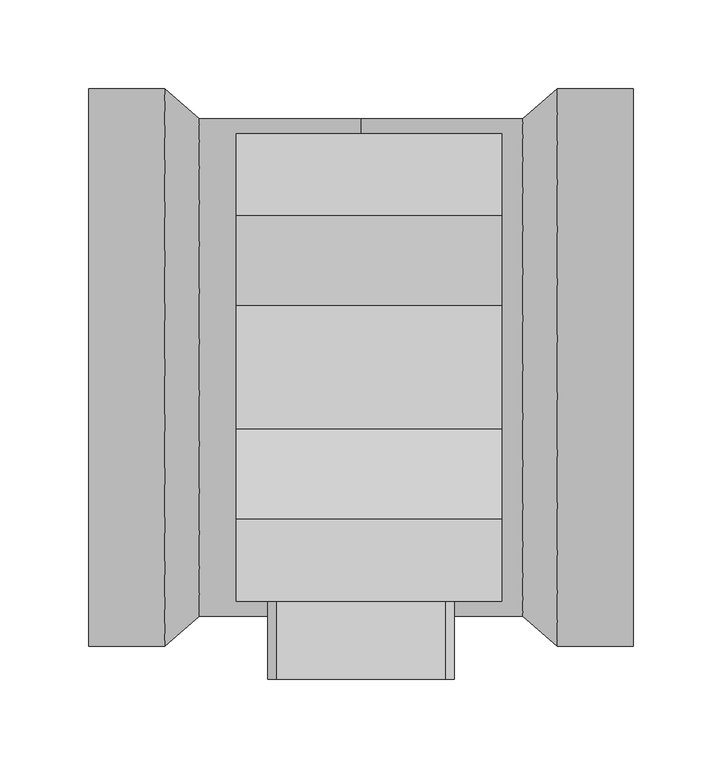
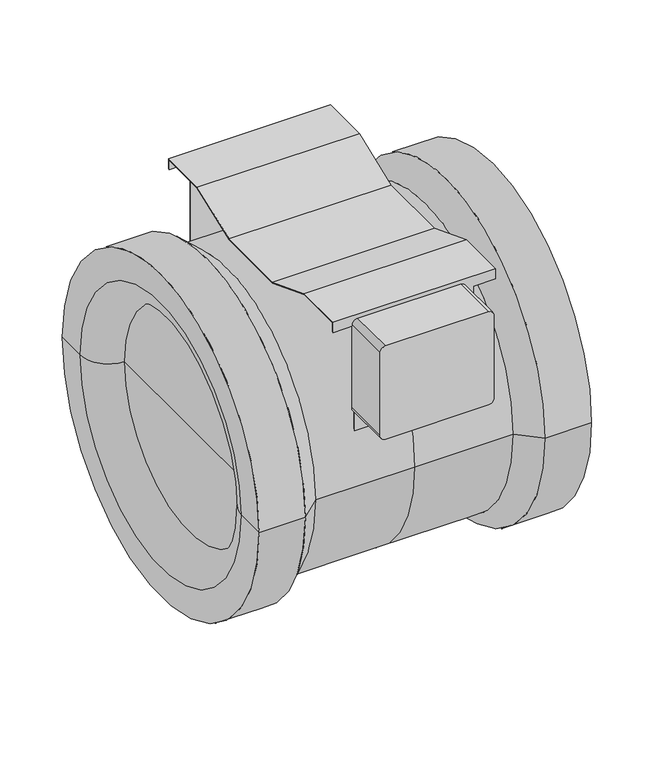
"""IFC4 building model written with IfcOpenShell, lengths in millimetres: unitary equipment geometry, VE-Wentylator-ParaForma-Harmann-JETTEC-Nawiewny : 315/2300S."""

from ifc_helpers import new_model, si_unit, point, frame, frame_2d, origin, place, context, project, spatial, polyline, circle_curve, ellipse_curve, trimmed, segment, composite_curve, outline, extrude, source, transform, mapped, element, save
from ifc_brep_helpers import plane_surface, cylinder_surface, revolved_surface, advanced_brep


def unitary_equipment_6ef10c1b(model_context):
    return source(origin(), model_context, "Body", "SolidModel", [
        extrude(outline(composite_curve([segment(polyline([(65.8, -47.7), (65.8, 47.7)]), True, "CONTINUOUS"), segment(trimmed(circle_curve(frame_2d((70.8, 47.7)), 5.0), [point((65.8, 47.7))], [point((70.8, 52.7))], False, "CARTESIAN"), True, "CONTINUOUS"), segment(polyline([(70.8, 52.7), (151.8, 52.7)]), True, "CONTINUOUS"), segment(trimmed(circle_curve(frame_2d((151.8, 47.7)), 5.0), [point((151.8, 52.7))], [point((156.8, 47.7))], False, "CARTESIAN"), True, "CONTINUOUS"), segment(polyline([(156.8, 47.7), (156.8, -47.7)]), True, "CONTINUOUS"), segment(trimmed(circle_curve(frame_2d((151.8, -47.7)), 5.0), [point((156.8, -47.7))], [point((151.8, -52.7))], False, "CARTESIAN"), True, "CONTINUOUS"), segment(polyline([(151.8, -52.7), (70.8, -52.7)]), True, "CONTINUOUS"), segment(trimmed(circle_curve(frame_2d((70.8, -47.7)), 5.0), [point((70.8, -52.7))], [point((65.8, -47.7))], False, "CARTESIAN"), True, "CONTINUOUS")], self_intersect=False)), frame((0.0, -176.1, 0.0), z_axis=(0.0, 1.0, 0.0), x_axis=(0.0, 0.0, 1.0)), (0.0, 0.0, 1.0), 45.0),
        advanced_brep(
        [(79.5, 131.9, 151.0), (79.5, 131.9, 161.0), (79.5, 85.7, 161.0), (79.5, 34.8, 141.4), (79.5, -34.8, 141.4), (79.5, -85.7, 161.0), (79.5, -131.9, 161.0), (79.5, -131.9, 151.0), (79.5, -130.9, 151.0), (79.5, -130.9, 160.0), (79.5, -85.8858819, 160.0), (79.5, -34.9858819, 140.4), (79.5, 34.9858819, 140.4), (79.5, 85.8858819, 160.0), (79.5, 130.9, 160.0), (79.5, 130.9, 151.0), (59.5, 130.9, 151.0), (59.5, 131.9, 151.0), (-70.5, 130.9, 160.0), (-70.5, 130.9, 151.0), (-50.5, 130.9, 151.0), (-50.5, 130.9, 50.6291665), (59.5, 130.9, 50.6291665), (-70.5, 85.8858819, 160.0), (-70.5, 34.9858819, 140.4), (-70.5, -34.9858819, 140.4), (-70.5, -85.8858819, 160.0), (-70.5, -130.9, 160.0), (59.5, -130.9, 151.0), (59.5, -130.9, 50.6291665), (-50.5, -130.9, 50.6291665), (-50.5, -130.9, 151.0), (-70.5, -130.9, 151.0), (59.5, -131.9, 151.0), (-70.5, -131.9, 161.0), (-70.5, -131.9, 151.0), (-50.5, -131.9, 151.0), (-50.5, -131.9, 47.9636581), (59.5, -131.9, 47.9636581), (-70.5, -85.7, 161.0), (-70.5, -34.8, 141.4), (-70.5, 34.8, 141.4), (-70.5, 85.7, 161.0), (-70.5, 131.9, 161.0), (59.5, 131.9, 47.9636581), (-50.5, 131.9, 47.9636581), (-50.5, 131.9, 151.0), (-70.5, 131.9, 151.0)],
        [
            (0, 1),
            (1, 2),
            (2, 3),
            (3, 4),
            (4, 5),
            (5, 6),
            (6, 7),
            (7, 8),
            (8, 9),
            (9, 10),
            (10, 11),
            (11, 12),
            (12, 13),
            (13, 14),
            (14, 15),
            (15, 0),
            (15, 16),
            (16, 17),
            (17, 0),
            (14, 18),
            (18, 19),
            (19, 20),
            (20, 21),
            (21, 22),
            (22, 16),
            (13, 23),
            (23, 18),
            (12, 24),
            (24, 23),
            (11, 25),
            (25, 24),
            (10, 26),
            (26, 25),
            (9, 27),
            (27, 26),
            (8, 28),
            (28, 29),
            (29, 30),
            (30, 31),
            (31, 32),
            (32, 27),
            (7, 33),
            (33, 28),
            (6, 34),
            (34, 35),
            (35, 36),
            (36, 37),
            (37, 38),
            (38, 33),
            (5, 39),
            (39, 34),
            (4, 40),
            (40, 39),
            (3, 41),
            (41, 40),
            (2, 42),
            (42, 41),
            (1, 43),
            (43, 42),
            (17, 44),
            (44, 45),
            (45, 46),
            (46, 47),
            (47, 43),
            (45, 21, circle_curve(frame((-50.5, 0.0, 0.0), z_axis=(1.0, 0.0, 0.0), x_axis=(0.0, 1.0, 0.0)), 140.35)),
            (20, 46),
            (30, 37, circle_curve(frame((-50.5, 0.0, 0.0), z_axis=(1.0, 0.0, 0.0), x_axis=(0.0, 1.0, 0.0)), 140.35)),
            (36, 31),
            (22, 44, circle_curve(frame((59.5, 0.0, 0.0), z_axis=(-1.0, 0.0, 0.0), x_axis=(0.0, 1.0, 0.0)), 140.35)),
            (38, 29, circle_curve(frame((59.5, 0.0, 0.0), z_axis=(-1.0, 0.0, 0.0), x_axis=(0.0, 1.0, 0.0)), 140.35)),
            (47, 19),
            (32, 35),
        ],
        [
            plane_surface(frame((79.5, 0.0, 0.0), z_axis=(1.0, 0.0, 0.0), x_axis=(0.0, 0.0, 1.0))),
            plane_surface(frame((59.5, 131.9, 151.0), z_axis=(0.0, 0.0, -1.0), x_axis=(1.0, 0.0, 0.0))),
            plane_surface(frame((59.5, 130.9, 151.0), z_axis=(0.0, -1.0, 0.0), x_axis=(1.0, 0.0, 0.0))),
            plane_surface(frame((59.5, 130.9, 160.0), z_axis=(0.0, 0.0, -1.0), x_axis=(1.0, 0.0, 0.0))),
            plane_surface(frame((59.5, 85.8858819, 160.0), z_axis=(0.0, 0.3593476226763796, -0.9332037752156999), x_axis=(1.0, 0.0, 0.0))),
            plane_surface(frame((59.5, 34.9858819, 140.4), z_axis=(0.0, 0.0, -1.0), x_axis=(1.0, 0.0, 0.0))),
            plane_surface(frame((59.5, -34.9858819, 140.4), z_axis=(0.0, -0.3593476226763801, -0.9332037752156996), x_axis=(1.0, 0.0, 0.0))),
            plane_surface(frame((59.5, -85.8858819, 160.0), z_axis=(0.0, 0.0, -1.0), x_axis=(1.0, 0.0, 0.0))),
            plane_surface(frame((59.5, -130.9, 160.0), z_axis=(0.0, 1.0, 0.0), x_axis=(1.0, 0.0, 0.0))),
            plane_surface(frame((59.5, -130.9, 151.0), z_axis=(0.0, 0.0, -1.0), x_axis=(1.0, 0.0, 0.0))),
            plane_surface(frame((59.5, -131.9, 151.0), z_axis=(0.0, -1.0, 0.0), x_axis=(1.0, 0.0, 0.0))),
            plane_surface(frame((59.5, -131.9, 161.0), z_axis=(0.0, 0.0, 1.0), x_axis=(1.0, 0.0, 0.0))),
            plane_surface(frame((59.5, -85.7, 161.0), z_axis=(0.0, 0.35934762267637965, 0.9332037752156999), x_axis=(1.0, 0.0, 0.0))),
            plane_surface(frame((59.5, -34.8, 141.4), z_axis=(0.0, 0.0, 1.0), x_axis=(1.0, 0.0, 0.0))),
            plane_surface(frame((59.5, 34.8, 141.4), z_axis=(0.0, -0.35934762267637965, 0.9332037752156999), x_axis=(1.0, 0.0, 0.0))),
            plane_surface(frame((59.5, 85.7, 161.0), z_axis=(0.0, 0.0, 1.0), x_axis=(1.0, 0.0, 0.0))),
            plane_surface(frame((59.5, 131.9, 161.0), z_axis=(0.0, 1.0, 0.0), x_axis=(1.0, 0.0, 0.0))),
            plane_surface(frame((-50.5, 0.0, 0.0), z_axis=(-1.0, 0.0, 0.0), x_axis=(0.0, 0.0, 1.0))),
            plane_surface(frame((59.5, 0.0, 0.0), z_axis=(1.0, 0.0, 0.0), x_axis=(0.0, 0.0, 1.0))),
            revolved_surface(polyline([(-50.5, 140.35, 0.0), (59.5, 140.35, 0.0)]), (-50.5, 0.0, 0.0), (-1.0, 0.0, 0.0)),
            plane_surface(frame((-70.5, 0.0, 0.0), z_axis=(-1.0, 0.0, 0.0), x_axis=(0.0, 0.0, 1.0))),
            plane_surface(frame((-70.5, 131.9, 151.0), z_axis=(0.0, 0.0, -1.0), x_axis=(1.0, 0.0, 0.0))),
            plane_surface(frame((-70.5, -130.9, 151.0), z_axis=(0.0, 0.0, -1.0), x_axis=(1.0, 0.0, 0.0))),
        ],
        [
            (0, [[1, 2, 3, 4, 5, 6, 7, 8, 9, 10, 11, 12, 13, 14, 15, 16]]),
            (1, [[-16, 17, 18, 19]]),
            (2, [[-15, 20, 21, 22, 23, 24, 25, -17]]),
            (3, [[-20, -14, 26, 27]]),
            (4, [[-26, -13, 28, 29]]),
            (5, [[-28, -12, 30, 31]]),
            (6, [[-30, -11, 32, 33]]),
            (7, [[-32, -10, 34, 35]]),
            (8, [[-34, -9, 36, 37, 38, 39, 40, 41]]),
            (9, [[-8, 42, 43, -36]]),
            (10, [[-7, 44, 45, 46, 47, 48, 49, -42]]),
            (11, [[-44, -6, 50, 51]]),
            (12, [[-50, -5, 52, 53]]),
            (13, [[-52, -4, 54, 55]]),
            (14, [[-54, -3, 56, 57]]),
            (15, [[-56, -2, 58, 59]]),
            (16, [[-58, -1, -19, 60, 61, 62, 63, 64]]),
            (17, [[65, -23, 66, -62]]),
            (17, [[67, -47, 68, -39]]),
            (18, [[69, -60, -18, -25]]),
            (18, [[70, -37, -43, -49]]),
            (19, [[-65, -61, -69, -24]]),
            (19, [[-67, -38, -70, -48]]),
            (20, [[71, -21, -27, -29, -31, -33, -35, -41, 72, -45, -51, -53, -55, -57, -59, -64]]),
            (21, [[-71, -63, -66, -22]]),
            (22, [[-72, -40, -68, -46]]),
        ],
    ),
        advanced_brep(
        [(-91.3, -140.4, 0.0), (-91.3, 140.4, 0.0), (-81.3, 140.4, 0.0), (0.0, 140.4, 0.0), (0.0, -140.4, 0.0), (-81.3, -140.4, 0.0), (-110.9, -157.5, 0.0), (-110.9, 157.5, 0.0), (-153.8, -157.5, 0.0), (-153.8, 157.5, 0.0), (-153.8, -129.5, 0.0), (-153.8, 129.5, 0.0), (-127.8, -103.5, 0.0), (-127.8, 103.5, 0.0), (-127.8, 0.0, 0.0), (153.8, -157.5, 0.0), (153.8, 157.5, 0.0), (153.8, 0.0, 0.0), (110.9, -157.5, 0.0), (110.9, 157.5, 0.0), (91.3, -140.4, 0.0), (91.3, 140.4, 0.0), (81.3, -140.4, 0.0), (81.3, 140.4, 0.0)],
        [
            (0, 1, circle_curve(frame((-91.3, 0.0, 0.0), z_axis=(1.0, 0.0, 0.0), x_axis=(0.0, 1.0, 0.0)), 140.4)),
            (1, 2),
            (2, 3),
            (3, 4, circle_curve(frame((0.0, 0.0, 0.0), z_axis=(-1.0, 0.0, 0.0), x_axis=(0.0, 1.0, 0.0)), 140.4)),
            (4, 5),
            (5, 0),
            (1, 0, circle_curve(frame((-91.3, 0.0, 0.0), z_axis=(1.0, 0.0, 0.0), x_axis=(0.0, 1.0, 0.0)), 140.4)),
            (4, 3, circle_curve(frame((0.0, 0.0, 0.0), z_axis=(-1.0, 0.0, 0.0), x_axis=(0.0, 1.0, 0.0)), 140.4)),
            (0, 6),
            (6, 7, circle_curve(frame((-110.9, 0.0, 0.0), z_axis=(1.0, 0.0, 0.0), x_axis=(0.0, 1.0, 0.0)), 157.5)),
            (7, 1),
            (7, 6, circle_curve(frame((-110.9, 0.0, 0.0), z_axis=(1.0, 0.0, 0.0), x_axis=(0.0, 1.0, 0.0)), 157.5)),
            (6, 8),
            (8, 9, circle_curve(frame((-153.8, 0.0, 0.0), z_axis=(1.0, 0.0, 0.0), x_axis=(0.0, 1.0, 0.0)), 157.5)),
            (9, 7),
            (9, 8, circle_curve(frame((-153.8, 0.0, 0.0), z_axis=(1.0, 0.0, 0.0), x_axis=(0.0, 1.0, 0.0)), 157.5)),
            (8, 10),
            (10, 11, circle_curve(frame((-153.8, 0.0, 0.0), z_axis=(1.0, 0.0, 0.0), x_axis=(0.0, 1.0, 0.0)), 129.5)),
            (11, 9),
            (11, 10, circle_curve(frame((-153.8, 0.0, 0.0), z_axis=(1.0, 0.0, 0.0), x_axis=(0.0, 1.0, 0.0)), 129.5)),
            (10, 12, circle_curve(frame((-127.8, -129.5, 0.0), z_axis=(0.0, 0.0, -1.0), x_axis=(1.0, 0.0, 0.0)), 26.0)),
            (12, 13, circle_curve(frame((-127.8, 0.0, 0.0), z_axis=(1.0, 0.0, 0.0), x_axis=(0.0, 1.0, 0.0)), 103.5)),
            (13, 11, circle_curve(frame((-127.8, 129.5, 0.0), z_axis=(0.0, 0.0, -1.0), x_axis=(1.0, 0.0, 0.0)), 26.0)),
            (13, 12, circle_curve(frame((-127.8, 0.0, 0.0), z_axis=(1.0, 0.0, 0.0), x_axis=(0.0, 1.0, 0.0)), 103.5)),
            (12, 14),
            (14, 13),
            (15, 16, circle_curve(frame((153.8, 0.0, 0.0), z_axis=(1.0, 0.0, 0.0), x_axis=(0.0, 1.0, 0.0)), 157.5)),
            (16, 17),
            (17, 15),
            (16, 15, circle_curve(frame((153.8, 0.0, 0.0), z_axis=(1.0, 0.0, 0.0), x_axis=(0.0, 1.0, 0.0)), 157.5)),
            (15, 18),
            (18, 19, circle_curve(frame((110.9, 0.0, 0.0), z_axis=(1.0, 0.0, 0.0), x_axis=(0.0, 1.0, 0.0)), 157.5)),
            (19, 16),
            (19, 18, circle_curve(frame((110.9, 0.0, 0.0), z_axis=(1.0, 0.0, 0.0), x_axis=(0.0, 1.0, 0.0)), 157.5)),
            (18, 20),
            (20, 21, circle_curve(frame((91.3, 0.0, 0.0), z_axis=(1.0, 0.0, 0.0), x_axis=(0.0, 1.0, 0.0)), 140.4)),
            (21, 19),
            (21, 20, circle_curve(frame((91.3, 0.0, 0.0), z_axis=(1.0, 0.0, 0.0), x_axis=(0.0, 1.0, 0.0)), 140.4)),
            (20, 22),
            (22, 4),
            (3, 23),
            (23, 21),
        ],
        [
            cylinder_surface(frame((-127.8, 0.0, 0.0), z_axis=(-1.0, 0.0, 0.0), x_axis=(0.0, 1.0, 0.0)), 140.4),
            revolved_surface(polyline([(-91.3, 140.4, 0.0), (-110.9, 157.5, 0.0)]), (-127.8, 0.0, 0.0), (-1.0, 0.0, 0.0)),
            cylinder_surface(frame((-127.8, 0.0, 0.0), z_axis=(-1.0, 0.0, 0.0), x_axis=(0.0, 1.0, 0.0)), 157.5),
            plane_surface(frame((-153.8, 0.0, 0.0), z_axis=(-1.0, 0.0, 0.0), x_axis=(0.0, 1.0, 0.0))),
            revolved_surface(trimmed(ellipse_curve(frame((-127.8, 129.5, 0.0), z_axis=(0.0, 0.0, 1.0), x_axis=(1.0, 0.0, 0.0)), 26.0, 26.0), [point((-153.8, 129.5, 0.0))], [point((-127.8, 103.5, 0.0))], True, "CARTESIAN"), (-127.8, 0.0, 0.0), (-1.0, 0.0, 0.0)),
            plane_surface(frame((-127.8, 0.0, 0.0), z_axis=(-1.0, 0.0, 0.0), x_axis=(0.0, 1.0, 0.0))),
            plane_surface(frame((153.8, 0.0, 0.0), z_axis=(1.0, 0.0, 0.0), x_axis=(0.0, 1.0, 0.0))),
            cylinder_surface(frame((0.0, 0.0, 0.0), z_axis=(-1.0, 0.0, 0.0), x_axis=(0.0, 1.0, 0.0)), 157.5),
            revolved_surface(polyline([(110.9, 157.5, 0.0), (91.3, 140.4, 0.0)]), (0.0, 0.0, 0.0), (-1.0, 0.0, 0.0)),
            cylinder_surface(frame((0.0, 0.0, 0.0), z_axis=(-1.0, 0.0, 0.0), x_axis=(0.0, 1.0, 0.0)), 140.4),
        ],
        [
            (0, [[1, 2, 3, 4, 5, 6]]),
            (0, [[7, -6, -5, 8, -3, -2]]),
            (1, [[-1, 9, 10, 11]]),
            (1, [[-7, -11, 12, -9]]),
            (2, [[-10, 13, 14, 15]]),
            (2, [[-12, -15, 16, -13]]),
            (3, [[-14, 17, 18, 19]]),
            (3, [[-16, -19, 20, -17]]),
            (4, [[-18, 21, 22, 23]]),
            (4, [[-20, -23, 24, -21]]),
            (5, [[-22, 25, 26]]),
            (5, [[-24, -26, -25]]),
            (6, [[27, 28, 29]]),
            (6, [[-28, 30, -29]]),
            (7, [[-27, 31, 32, 33]]),
            (7, [[-30, -33, 34, -31]]),
            (8, [[-32, 35, 36, 37]]),
            (8, [[-34, -37, 38, -35]]),
            (9, [[-36, 39, 40, -4, 41, 42]]),
            (9, [[-38, -42, -41, -8, -40, -39]]),
        ],
    ),
    ])


if __name__ == "__main__":
    model = new_model("IFC4")
    model_context = context("Model", 3, world=origin())
    ifc_project = project(units=[si_unit("LENGTHUNIT", "METRE", prefix="MILLI")], contexts=[model_context])
    site = spatial("IfcSite", under=ifc_project)
    building = spatial("IfcBuilding", under=site)
    placement = place(None, origin())
    unitary_equipment_shape = unitary_equipment_6ef10c1b(model_context)
    element("IfcUnitaryEquipment", 1, ObjectType="VE-Wentylator-ParaForma-Harmann-JETTEC-Nawiewny : 315/2300S", at=placement, inside=building, context=model_context, shape_type="MappedRepresentation", body=[
        mapped(unitary_equipment_shape, transform((0.0, 0.0, 0.0), x_axis=(1.0, 0.0, 0.0), y_axis=(0.0, 1.0, 0.0), z_axis=(0.0, 0.0, 1.0))),
    ])
    save(model, "model.ifc")
